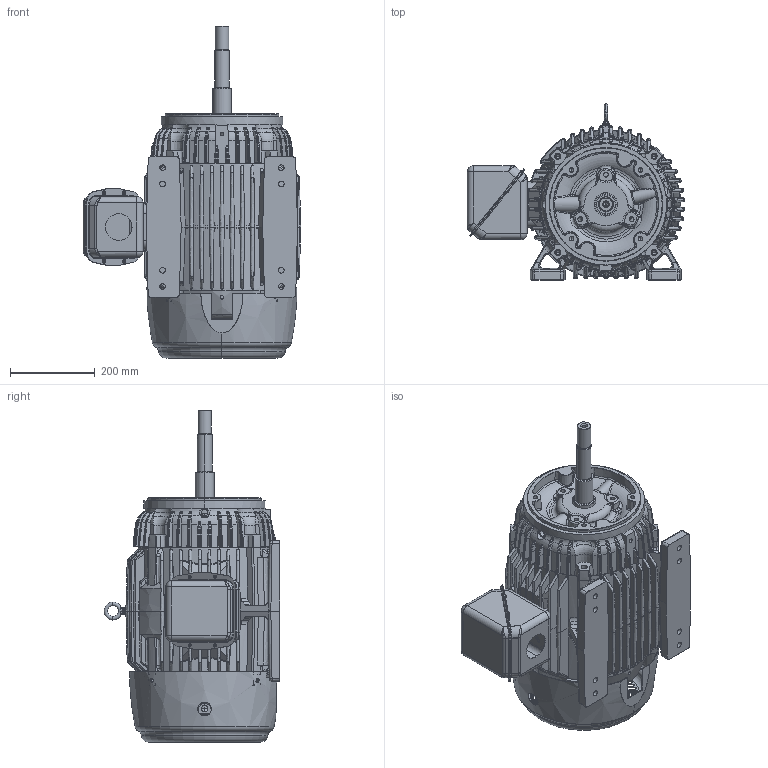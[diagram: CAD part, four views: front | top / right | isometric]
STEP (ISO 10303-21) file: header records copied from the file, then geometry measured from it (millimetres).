
FILE_DESCRIPTION((''),'2;1');
FILE_NAME('C_STD_ASSY_ASM','2014-06-23T',('NMC779F'),('Nidec Motor Corporation'),'PRO/ENGINEER BY PARAMETRIC TECHNOLOGY CORPORATION, 2013150','PRO/ENGINEER BY PARAMETRIC TECHNOLOGY CORPORATION, 2013150','');
FILE_SCHEMA(('CONFIG_CONTROL_DESIGN'));
Length unit declared in the file: inch
Products named in the file (10): 0945027; 0725181; 0116263; 0645679; 0645672; 0133167; 0378793; 0378794; 0382077; C_STD_ASSY_ASM
Assembly tree (9 placements, depth 2):
  C_STD_ASSY_ASM
    0945027
    0725181
    0116263
    0645679
    0645672
    0133167
    0378793
    0378794
    0382077
Bounding box: 511.52 x 414.12 x 781.23 mm (x, y, z)
Volume: 13313313.8 mm3; surface area: 2984879.5 mm2
Topology: 11 solids, 11 shells, 3237 faces, 8387 edges, 5157 vertices
Faces by surface type: bspline 1000, plane 736, cylinder 689, torus 323, cone 296, extrusion 121, sphere 72
Entity records: 144546 total; most frequent: CARTESIAN_POINT 74647, ORIENTED_EDGE 16670, DIRECTION 11354, EDGE_CURVE 8335, VERTEX_POINT 5157, AXIS2_PLACEMENT_3D 4543, B_SPLINE_CURVE_WITH_KNOTS 3901, EDGE_LOOP 3552
